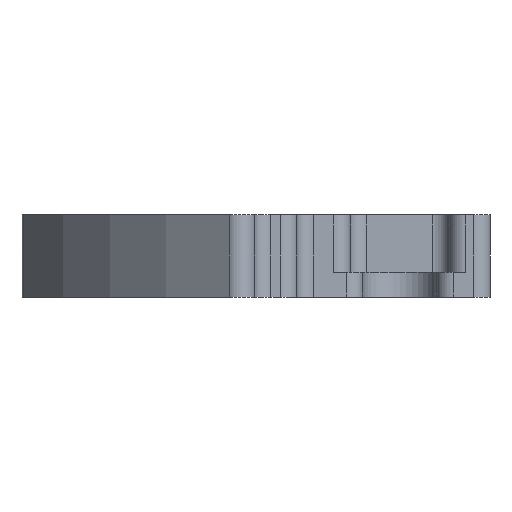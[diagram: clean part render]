
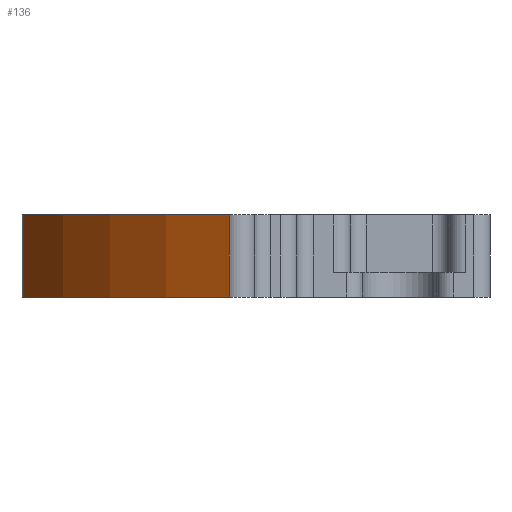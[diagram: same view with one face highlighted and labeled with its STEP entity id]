
A CAD part, front view. The second image highlights one B-rep face of the part: STEP entity #136.
In plain terms, the highlighted cylindrical face has radius 34 mm (diameter 68 mm), a partial arc.
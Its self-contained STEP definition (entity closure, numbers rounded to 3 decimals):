
#136=ADVANCED_FACE('',(#252),#1086,.T.);
#252=FACE_OUTER_BOUND('',#368,.F.);
#368=EDGE_LOOP('',(#504,#505,#506,#507));
#504=ORIENTED_EDGE('',*,*,#1504,.T.);
#505=ORIENTED_EDGE('',*,*,#1499,.F.);
#506=ORIENTED_EDGE('',*,*,#1502,.T.);
#507=ORIENTED_EDGE('',*,*,#1498,.T.);
#1086=CYLINDRICAL_SURFACE('',#2180,34.);
#1177=LINE('',#3172,#1332);
#1178=LINE('',#3173,#1333);
#1332=VECTOR('',#2354,5.);
#1333=VECTOR('',#2355,5.);
#1498=EDGE_CURVE('',#2025,#2024,#1177,.T.);
#1499=EDGE_CURVE('',#2023,#2022,#1178,.T.);
#1502=EDGE_CURVE('',#2023,#2025,#1778,.T.);
#1504=EDGE_CURVE('',#2024,#2022,#1779,.T.);
#1778=CIRCLE('',#2089,34.);
#1779=CIRCLE('',#2090,34.);
#2022=VERTEX_POINT('',#3102);
#2023=VERTEX_POINT('',#3103);
#2024=VERTEX_POINT('',#3104);
#2025=VERTEX_POINT('',#3105);
#2089=AXIS2_PLACEMENT_3D('',#3176,#2358,#2359);
#2090=AXIS2_PLACEMENT_3D('',#3178,#2361,#2362);
#2180=AXIS2_PLACEMENT_3D('',#3413,#2658,#2659);
#2354=DIRECTION('',(0.,0.,1.));
#2355=DIRECTION('',(0.,0.,1.));
#2358=DIRECTION('',(0.,0.,-1.));
#2359=DIRECTION('',(-0.53,-0.848,0.));
#2361=DIRECTION('',(0.,0.,1.));
#2362=DIRECTION('',(-0.898,-0.439,0.));
#2658=DIRECTION('',(0.,0.,1.));
#2659=DIRECTION('',(-0.898,-0.439,0.));
#3102=CARTESIAN_POINT('',(266.345,390.427,350.374));
#3103=CARTESIAN_POINT('',(266.345,390.427,345.374));
#3104=CARTESIAN_POINT('',(253.833,404.313,350.374));
#3105=CARTESIAN_POINT('',(253.833,404.313,345.374));
#3172=CARTESIAN_POINT('',(253.833,404.313,345.374));
#3173=CARTESIAN_POINT('',(266.345,390.427,345.374));
#3176=CARTESIAN_POINT('',(284.375,419.252,345.374));
#3178=CARTESIAN_POINT('',(284.375,419.252,350.374));
#3413=CARTESIAN_POINT('',(284.375,419.252,345.374));
